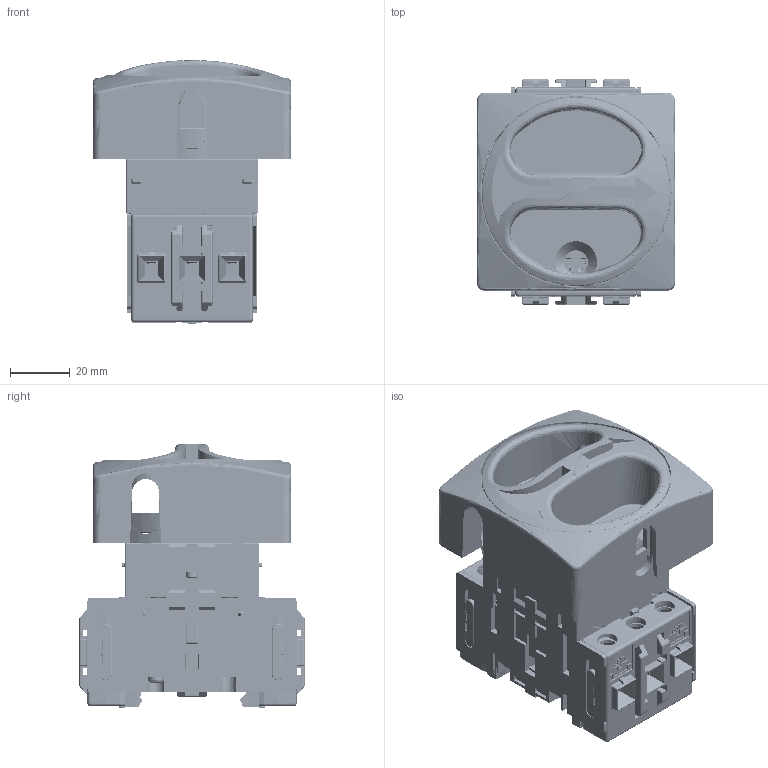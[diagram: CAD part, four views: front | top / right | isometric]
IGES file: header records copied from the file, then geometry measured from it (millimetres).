
Start section: START RECORD GO HERE.
Global section: file name: 0172001.igs; native system: DASSAULT SYSTEMES CATIA V5 R19 - www.3ds.com; preprocessor: CATIA Version 5 Release 19 SP 9 ; author: fantini; organization: EU; date: 20130522.162436; units: millimetre
Bounding box: 66 x 75.15 x 88.11 mm (x, y, z)
Surface area: 142547.5 mm2 (no closed solid volume)
Topology: 0 solids, 0 shells, 7863 faces, 41873 edges, 41568 vertices
Faces by surface type: bspline 7863
